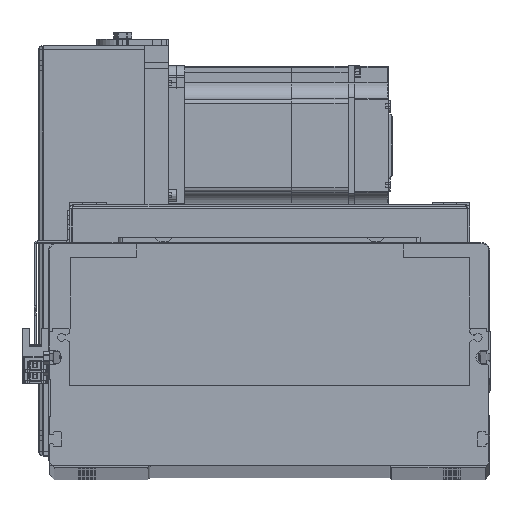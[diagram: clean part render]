
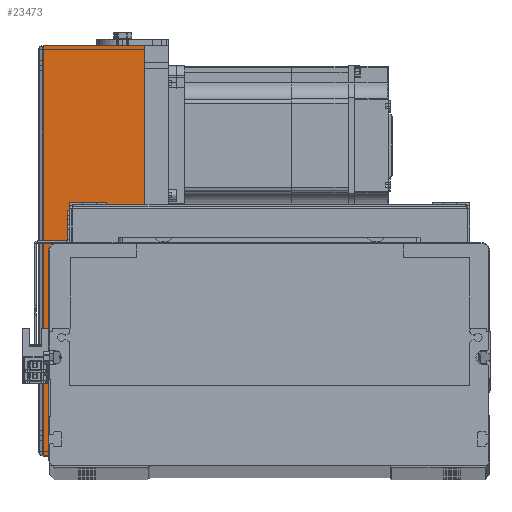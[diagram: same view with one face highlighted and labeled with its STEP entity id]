
A CAD part, top view. The second image highlights one B-rep face of the part: STEP entity #23473.
In plain terms, the highlighted planar face has unit normal (0, 0, 1) as drawn and (0, 1, 0) by its records, which use the part's own axes.
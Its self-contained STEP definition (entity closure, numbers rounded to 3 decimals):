
#545 = CARTESIAN_POINT ( 'NONE',  ( 0., 54., 12. ) ) ;
#3194 = LINE ( 'NONE', #12173, #40397 ) ;
#3272 = CARTESIAN_POINT ( 'NONE',  ( 102.5, 54., 12. ) ) ;
#4788 = DIRECTION ( 'NONE',  ( -1., 0., 0. ) ) ;
#5132 = VERTEX_POINT ( 'NONE', #17412 ) ;
#7677 = DIRECTION ( 'NONE',  ( 0., 0., -1. ) ) ;
#8429 = AXIS2_PLACEMENT_3D ( 'NONE', #8975, #20945, #28697 ) ;
#8975 = CARTESIAN_POINT ( 'NONE',  ( 0., 54., 63. ) ) ;
#11613 = ORIENTED_EDGE ( 'NONE', *, *, #30622, .T. ) ;
#11649 = DIRECTION ( 'NONE',  ( -1., 0., 0. ) ) ;
#11921 = CARTESIAN_POINT ( 'NONE',  ( -102.5, 54., 12. ) ) ;
#12173 = CARTESIAN_POINT ( 'NONE',  ( -102.5, 54., 62.7 ) ) ;
#16053 = VECTOR ( 'NONE', #4788, 1000. ) ;
#16084 = CARTESIAN_POINT ( 'NONE',  ( -102.5, 54., 62.7 ) ) ;
#16176 = LINE ( 'NONE', #40253, #40696 ) ;
#17412 = CARTESIAN_POINT ( 'NONE',  ( 102.5, 54., 62.7 ) ) ;
#19679 = DIRECTION ( 'NONE',  ( 0., 0., -1. ) ) ;
#19687 = VERTEX_POINT ( 'NONE', #3272 ) ;
#20945 = DIRECTION ( 'NONE',  ( 0., -1., 0. ) ) ;
#21011 = LINE ( 'NONE', #545, #16053 ) ;
#21338 = EDGE_CURVE ( 'NONE', #5132, #19687, #16176, .T. ) ;
#21840 = VECTOR ( 'NONE', #11649, 1000. ) ;
#21841 = ORIENTED_EDGE ( 'NONE', *, *, #34462, .F. ) ;
#23473 = ADVANCED_FACE ( 'NONE', ( #24989 ), #32705, .F. ) ;
#23769 = VERTEX_POINT ( 'NONE', #16084 ) ;
#24989 = FACE_OUTER_BOUND ( 'NONE', #42943, .T. ) ;
#28697 = DIRECTION ( 'NONE',  ( 0., 0., 1. ) ) ;
#30622 = EDGE_CURVE ( 'NONE', #19687, #32009, #21011, .T. ) ;
#31914 = LINE ( 'NONE', #48234, #21840 ) ;
#32009 = VERTEX_POINT ( 'NONE', #11921 ) ;
#32705 = PLANE ( 'NONE',  #8429 ) ;
#34462 = EDGE_CURVE ( 'NONE', #23769, #32009, #3194, .T. ) ;
#36577 = ORIENTED_EDGE ( 'NONE', *, *, #21338, .T. ) ;
#40253 = CARTESIAN_POINT ( 'NONE',  ( 102.5, 54., 62.7 ) ) ;
#40397 = VECTOR ( 'NONE', #7677, 1000. ) ;
#40696 = VECTOR ( 'NONE', #19679, 1000. ) ;
#42943 = EDGE_LOOP ( 'NONE', ( #49744, #36577, #11613, #21841 ) ) ;
#48234 = CARTESIAN_POINT ( 'NONE',  ( -102.5, 54., 62.7 ) ) ;
#49200 = EDGE_CURVE ( 'NONE', #5132, #23769, #31914, .T. ) ;
#49744 = ORIENTED_EDGE ( 'NONE', *, *, #49200, .F. ) ;
